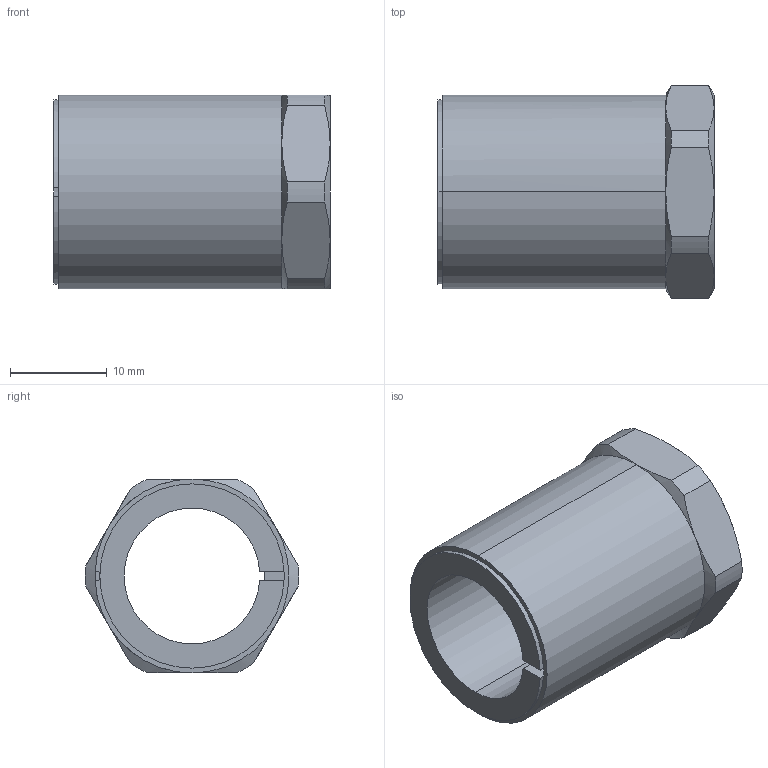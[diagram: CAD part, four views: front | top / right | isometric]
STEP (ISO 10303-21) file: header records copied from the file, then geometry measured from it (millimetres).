
FILE_DESCRIPTION (( 'STEP AP203' ), '1' );
FILE_NAME ('KBS 57 - 14 x 20.STEP', '2015-07-05T18:33:16', ( '' ), ( '' ), 'SwSTEP 2.0', 'SolidWorks 2010', '' );
FILE_SCHEMA (( 'CONFIG_CONTROL_DESIGN' ));
Length unit declared in the file: millimetre
Products named in the file (1): KBS 57 - 14 x 20
Bounding box: 28.5 x 21.99 x 20 mm (x, y, z)
Volume: 4589.6 mm3; surface area: 3581.1 mm2
Topology: 1 solids, 1 shells, 47 faces, 117 edges, 72 vertices
Faces by surface type: cylinder 16, plane 16, cone 15
Entity records: 1567 total; most frequent: CARTESIAN_POINT 377, DIRECTION 238, ORIENTED_EDGE 234, EDGE_CURVE 117, AXIS2_PLACEMENT_3D 99, VERTEX_POINT 72, CIRCLE 51, EDGE_LOOP 49
